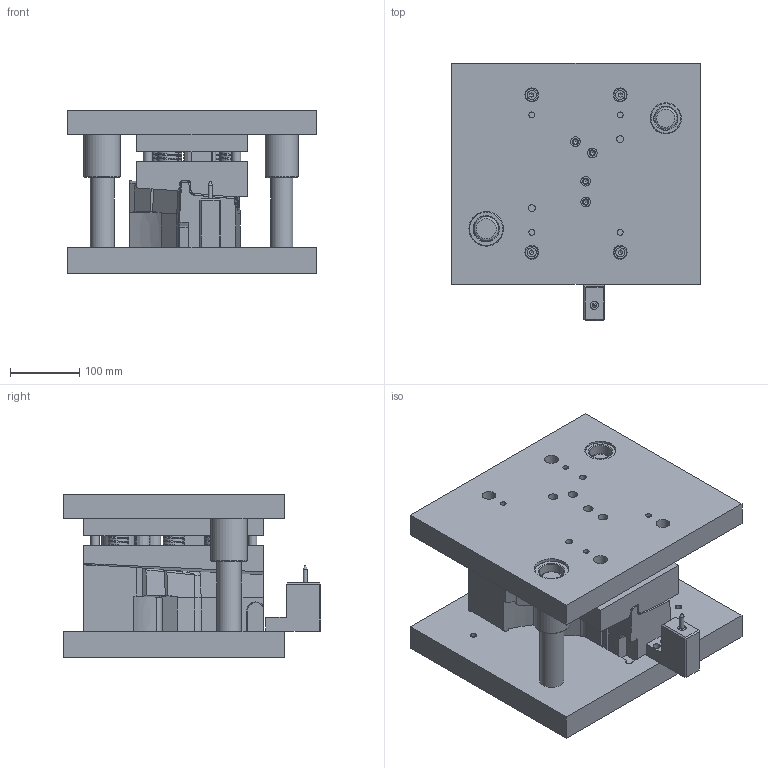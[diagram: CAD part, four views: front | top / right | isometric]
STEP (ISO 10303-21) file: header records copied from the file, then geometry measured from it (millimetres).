
FILE_DESCRIPTION(/* description */ (''),/* implementation_level */ '2;1');
FILE_NAME(/* name */ 'SHT0014561-V1-220517_CM1-PI_x_t.stp',/* time_stamp */ '2022-09-14T11:49:39+08:00',/* author */ (''),/* organization */ (''),/* preprocessor_version */ 'ST-DEVELOPER v14',/* originating_system */ 'SIEMENS PLM Software NX 8.0',/* authorisation */ '');
FILE_SCHEMA (('AP203_CONFIGURATION_CONTROLLED_3D_DESIGN_OF_MECHANICAL_PARTS_AND_ASSEMBLIES_MIM_LF { 1 0 10303 403 2 1 2}'));
Products named in the file (1): Admi1598F2766l9a
Bounding box: 360 x 373 x 236 mm (x, y, z)
Volume: 13368860.2 mm3; surface area: 1336633.5 mm2
Topology: 30 solids, 30 shells, 1068 faces, 3441 edges, 2481 vertices
Faces by surface type: plane 439, cylinder 301, bspline 230, extrusion 67, cone 27, torus 4
Full cylindrical faces by diameter (mm): 5.1 x2, 6 x1, 6.8 x8, 7 x2, 8 x4, 8.5 x14, 9 x4, 10 x4, 11 x14, 12 x2, 13 x12, 14 x4, 15 x36, 18 x12, 20 x4, 30 x36, 31 x13, 32 x3, 32.05 x1, 33 x1, 34 x1, 35 x3, 35.05 x1, 36 x1, 45 x1, 45.1 x1, 48 x1, 50 x1, 50.1 x1, 53 x1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
Entity records: 98990 total; most frequent: CARTESIAN_POINT 73984, ORIENTED_EDGE 6024, DIRECTION 3421, EDGE_CURVE 3012, VERTEX_POINT 2306, B_SPLINE_CURVE_WITH_KNOTS 1656, EDGE_LOOP 1389, AXIS2_PLACEMENT_3D 1219
